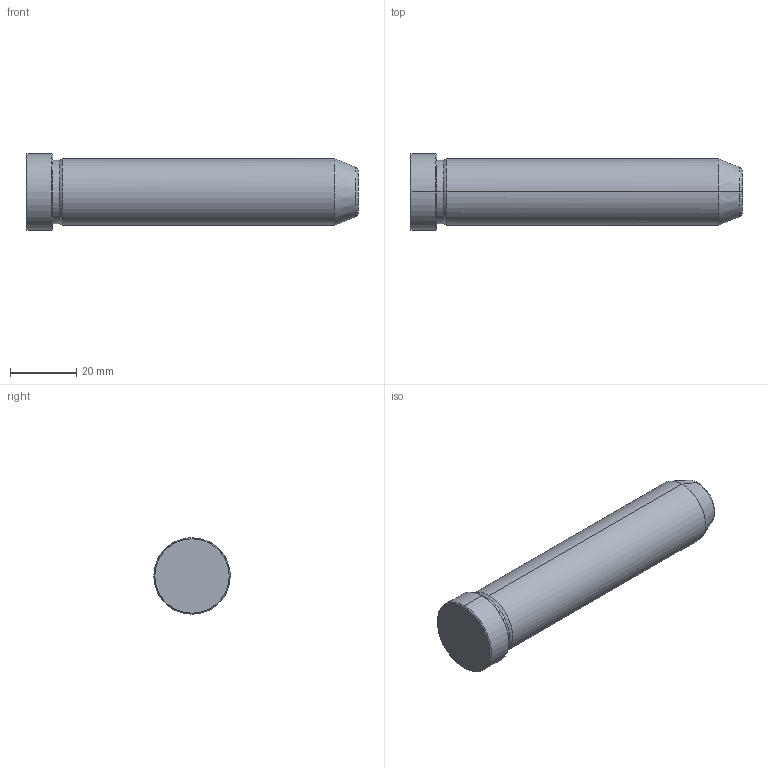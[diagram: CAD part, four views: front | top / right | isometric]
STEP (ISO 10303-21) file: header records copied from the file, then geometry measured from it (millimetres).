
FILE_DESCRIPTION(('CATIA V5 STEP Exchange'),'2;1');
FILE_NAME('C:\Users\Utente\Desktop\IO LAVORO\3D X SITO CF\X SITO\PLASTICA\549\549-20X100.stp','2021-12-11T09:54:18+00:00',('none'),('none'),'CATIA Version 5 Release 20 GA (IN-10)','CATIA V5 STEP AP203','none');
FILE_SCHEMA(('CONFIG_CONTROL_DESIGN'));
Length unit declared in the file: millimetre
Products named in the file (1): 549-20X100
Bounding box: 100 x 23 x 23 mm (x, y, z)
Volume: 31578.4 mm3; surface area: 7002.5 mm2
Topology: 1 solids, 1 shells, 19 faces, 56 edges, 40 vertices
Faces by surface type: cone 8, cylinder 6, plane 3, torus 2
Entity records: 736 total; most frequent: CARTESIAN_POINT 192, ORIENTED_EDGE 112, DIRECTION 86, EDGE_CURVE 56, AXIS2_PLACEMENT_3D 54, VERTEX_POINT 40, CIRCLE 34, EDGE_LOOP 20
